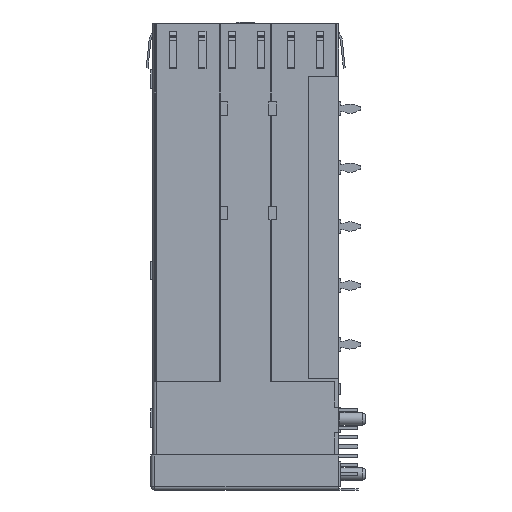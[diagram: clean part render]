
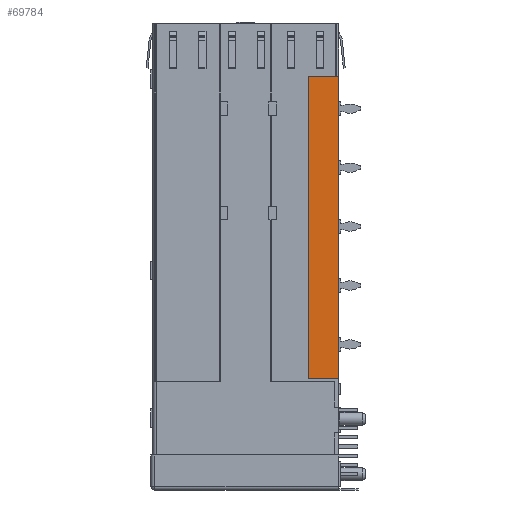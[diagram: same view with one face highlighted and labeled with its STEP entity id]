
A CAD part, left-side view. The second image highlights one B-rep face of the part: STEP entity #69784.
In plain terms, the highlighted planar face has unit normal (-1, 0, 0).
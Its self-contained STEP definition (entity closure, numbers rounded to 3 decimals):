
#4328 = VERTEX_POINT ( 'NONE', #85625 ) ;
#4414 = EDGE_CURVE ( 'NONE', #16342, #4328, #79495, .T. ) ;
#4756 = EDGE_CURVE ( 'NONE', #4328, #10286, #36196, .T. ) ;
#5265 = ORIENTED_EDGE ( 'NONE', *, *, #62077, .F. ) ;
#10286 = VERTEX_POINT ( 'NONE', #89416 ) ;
#13220 = VECTOR ( 'NONE', #93066, 1000. ) ;
#14734 = AXIS2_PLACEMENT_3D ( 'NONE', #99023, #47422, #107670 ) ;
#15720 = ORIENTED_EDGE ( 'NONE', *, *, #4414, .F. ) ;
#16342 = VERTEX_POINT ( 'NONE', #111502 ) ;
#20555 = ORIENTED_EDGE ( 'NONE', *, *, #96531, .F. ) ;
#20677 = VECTOR ( 'NONE', #96410, 1000. ) ;
#30902 = VECTOR ( 'NONE', #95699, 1000. ) ;
#35466 = CARTESIAN_POINT ( 'NONE',  ( -43.125, 4.1, -7.1 ) ) ;
#36196 = LINE ( 'NONE', #50121, #13220 ) ;
#40161 = FACE_OUTER_BOUND ( 'NONE', #66598, .T. ) ;
#47422 = DIRECTION ( 'NONE',  ( 1., 0., 0. ) ) ;
#49012 = LINE ( 'NONE', #87789, #20677 ) ;
#50121 = CARTESIAN_POINT ( 'NONE',  ( -43.125, 0., -7.1 ) ) ;
#55422 = ORIENTED_EDGE ( 'NONE', *, *, #4756, .F. ) ;
#62077 = EDGE_CURVE ( 'NONE', #63386, #16342, #80026, .T. ) ;
#63386 = VERTEX_POINT ( 'NONE', #82570 ) ;
#66598 = EDGE_LOOP ( 'NONE', ( #55422, #15720, #5265, #20555 ) ) ;
#69784 = ADVANCED_FACE ( 'NONE', ( #40161 ), #81758, .F. ) ;
#79495 = LINE ( 'NONE', #35466, #30902 ) ;
#80026 = LINE ( 'NONE', #83064, #102895 ) ;
#81758 = PLANE ( 'NONE',  #14734 ) ;
#82570 = CARTESIAN_POINT ( 'NONE',  ( -43.125, 0., -48.1 ) ) ;
#83064 = CARTESIAN_POINT ( 'NONE',  ( -43.125, 0., -48.1 ) ) ;
#85625 = CARTESIAN_POINT ( 'NONE',  ( -43.125, 4.1, -7.1 ) ) ;
#87789 = CARTESIAN_POINT ( 'NONE',  ( -43.125, 0., -7.1 ) ) ;
#89416 = CARTESIAN_POINT ( 'NONE',  ( -43.125, 0., -7.1 ) ) ;
#91676 = DIRECTION ( 'NONE',  ( 0., 1., 0. ) ) ;
#93066 = DIRECTION ( 'NONE',  ( 0., -1., 0. ) ) ;
#95699 = DIRECTION ( 'NONE',  ( 0., 0., 1. ) ) ;
#96410 = DIRECTION ( 'NONE',  ( 0., 0., -1. ) ) ;
#96531 = EDGE_CURVE ( 'NONE', #10286, #63386, #49012, .T. ) ;
#99023 = CARTESIAN_POINT ( 'NONE',  ( -43.125, 0., 0. ) ) ;
#102895 = VECTOR ( 'NONE', #91676, 1000. ) ;
#107670 = DIRECTION ( 'NONE',  ( 0., 0., 1. ) ) ;
#111502 = CARTESIAN_POINT ( 'NONE',  ( -43.125, 4.1, -48.1 ) ) ;
